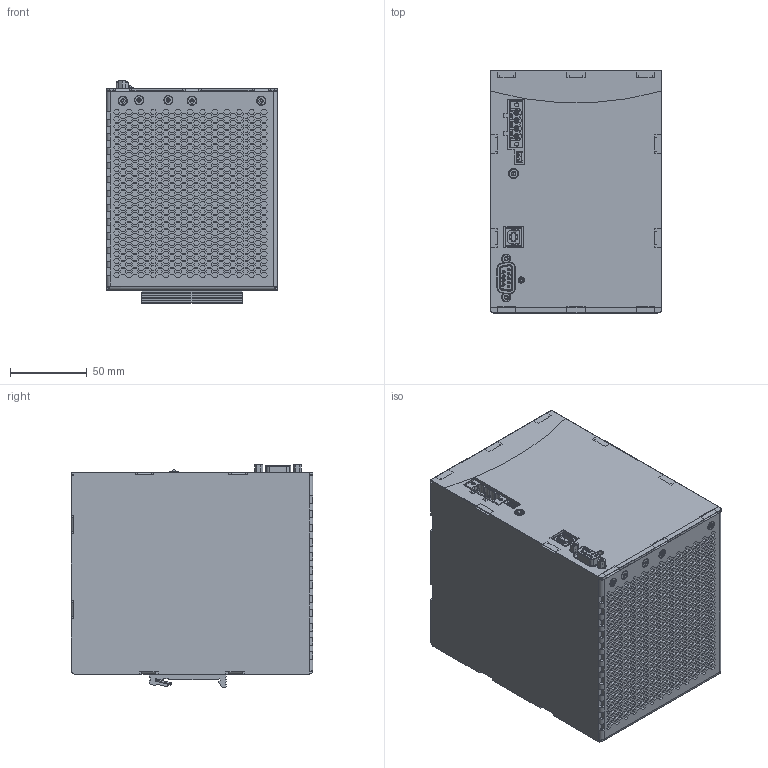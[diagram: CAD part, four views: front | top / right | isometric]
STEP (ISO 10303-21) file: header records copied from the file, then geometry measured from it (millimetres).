
FILE_DESCRIPTION (( 'STEP AP214' ), '1' );
FILE_NAME ('UPSI-2412DPx.STEP', '2021-12-16T11:22:25', ( '' ), ( '' ), 'SwSTEP 2.0', 'SolidWorks 2021', '' );
FILE_SCHEMA (( 'AUTOMOTIVE_DESIGN' ));
Length unit declared in the file: millimetre
Products named in the file (1): UPSI-2412DPx
Bounding box: 111 x 157 x 144.5 mm (x, y, z)
Volume: 2271631.6 mm3; surface area: 188281.1 mm2
Topology: 44 solids, 44 shells, 11166 faces, 28985 edges, 19137 vertices
Faces by surface type: plane 10335, cylinder 537, cone 136, bspline 81, torus 75, sphere 2
Entity records: 467975 total; most frequent: CARTESIAN_POINT 71127, ORIENTED_EDGE 57964, DIRECTION 51964, EDGE_CURVE 28982, LINE 27340, VECTOR 27340, VERTEX_POINT 19136, EDGE_LOOP 12500
